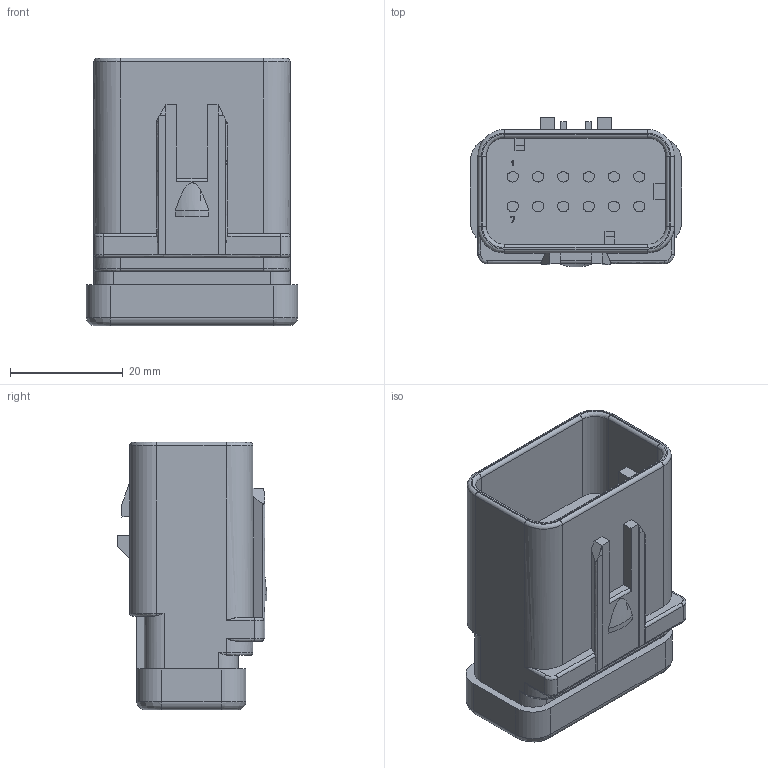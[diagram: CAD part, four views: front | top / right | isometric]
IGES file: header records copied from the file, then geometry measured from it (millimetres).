
Start section:  PTC IGES file: c-776438-4-d-3d.igs
Global section: file name: c-776438-4-d-3d.igs; native system: Creo Parametric by Parametric Technology Corporation; preprocessor: 2013050; author: workeradm; organization: Unknown; units: millimetre
Bounding box: 37.6 x 26.63 x 47.55 mm (x, y, z)
Surface area: 9119.4 mm2 (no closed solid volume)
Topology: 0 solids, 0 shells, 274 faces, 1344 edges, 1344 vertices
Faces by surface type: bspline 154, revolution 120
